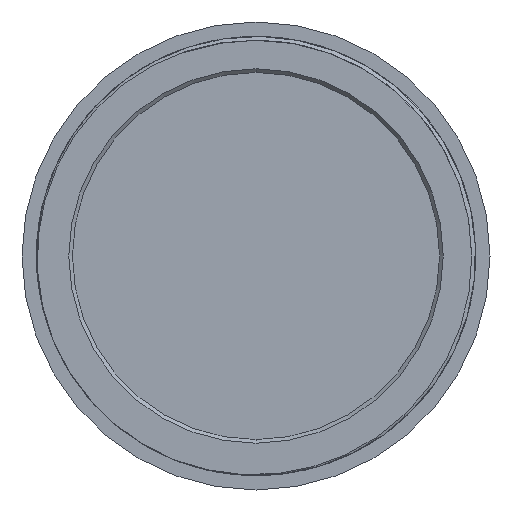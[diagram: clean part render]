
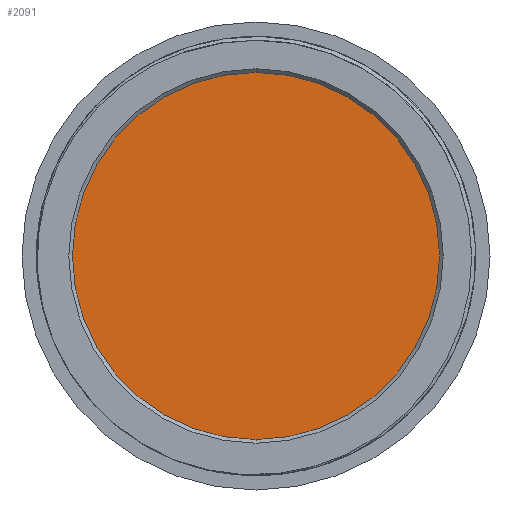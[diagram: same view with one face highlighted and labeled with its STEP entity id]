
A CAD part, front view. The second image highlights one B-rep face of the part: STEP entity #2091.
In plain terms, the highlighted planar face has unit normal (0, -1, 0).
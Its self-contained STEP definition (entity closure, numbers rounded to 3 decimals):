
#13 = VERTEX_POINT ( 'NONE', #2094 ) ;
#37 = CARTESIAN_POINT ( 'NONE',  ( 0., 2.3, 0. ) ) ;
#40 = VERTEX_POINT ( 'NONE', #2573 ) ;
#94 = ORIENTED_EDGE ( 'NONE', *, *, #993, .F. ) ;
#286 = AXIS2_PLACEMENT_3D ( 'NONE', #2543, #2571, #558 ) ;
#299 = DIRECTION ( 'NONE',  ( 0., 0., 1. ) ) ;
#558 = DIRECTION ( 'NONE',  ( 0., 0., 1. ) ) ;
#753 = PLANE ( 'NONE',  #286 ) ;
#754 = AXIS2_PLACEMENT_3D ( 'NONE', #1803, #1620, #299 ) ;
#788 = FACE_OUTER_BOUND ( 'NONE', #1119, .T. ) ;
#947 = CIRCLE ( 'NONE', #754, 13.5 ) ;
#993 = EDGE_CURVE ( 'NONE', #13, #40, #2112, .T. ) ;
#1119 = EDGE_LOOP ( 'NONE', ( #1153, #94 ) ) ;
#1153 = ORIENTED_EDGE ( 'NONE', *, *, #2627, .F. ) ;
#1475 = DIRECTION ( 'NONE',  ( 0., 1., 0. ) ) ;
#1620 = DIRECTION ( 'NONE',  ( 0., 1., 0. ) ) ;
#1803 = CARTESIAN_POINT ( 'NONE',  ( 0., 2.3, 0. ) ) ;
#2091 = ADVANCED_FACE ( 'NONE', ( #788 ), #753, .F. ) ;
#2094 = CARTESIAN_POINT ( 'NONE',  ( 0., 2.3, 13.5 ) ) ;
#2112 = CIRCLE ( 'NONE', #2871, 13.5 ) ;
#2543 = CARTESIAN_POINT ( 'NONE',  ( 0., 2.3, 0. ) ) ;
#2571 = DIRECTION ( 'NONE',  ( 0., 1., 0. ) ) ;
#2573 = CARTESIAN_POINT ( 'NONE',  ( 0., 2.3, -13.5 ) ) ;
#2574 = DIRECTION ( 'NONE',  ( 0., 0., 1. ) ) ;
#2627 = EDGE_CURVE ( 'NONE', #40, #13, #947, .T. ) ;
#2871 = AXIS2_PLACEMENT_3D ( 'NONE', #37, #1475, #2574 ) ;
